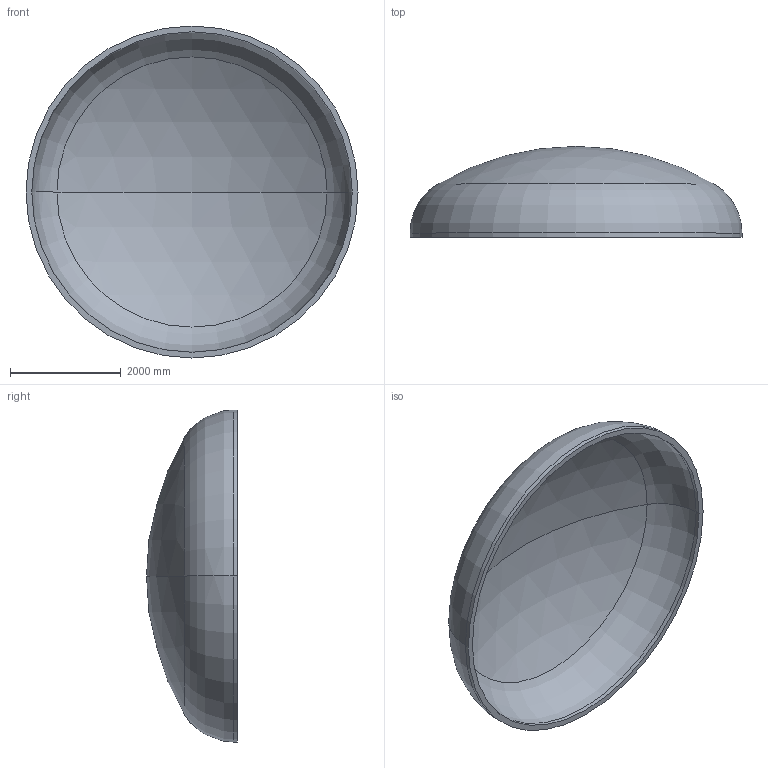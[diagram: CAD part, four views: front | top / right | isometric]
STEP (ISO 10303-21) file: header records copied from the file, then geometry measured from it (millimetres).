
FILE_DESCRIPTION (( 'STEP AP203' ), '1' );
FILE_NAME ('DIN 28013 Korbbogenform_-_Boden DIN 28013 - 6000 x 75 - I - s=104.step', '2016-07-04T10:38:55', ( '' ), ( '' ), 'SwSTEP 2.0', 'SolidWorks 2013', '' );
FILE_SCHEMA (( 'CONFIG_CONTROL_DESIGN' ));
Length unit declared in the file: millimetre
Products named in the file (1): DIN 28013 Korbbogenform_-_Boden DIN 28013 - 6000 x 75 - I - s=104
Bounding box: 6000 x 1642.72 x 6000 mm (x, y, z)
Volume: 4125880601.7 mm3; surface area: 81292855.3 mm2
Topology: 1 solids, 1 shells, 13 faces, 24 edges, 14 vertices
Faces by surface type: torus 4, cylinder 4, sphere 4, plane 1
Entity records: 407 total; most frequent: DIRECTION 72, CARTESIAN_POINT 52, ORIENTED_EDGE 48, AXIS2_PLACEMENT_3D 34, EDGE_CURVE 24, CIRCLE 20, EDGE_LOOP 14, VERTEX_POINT 14
